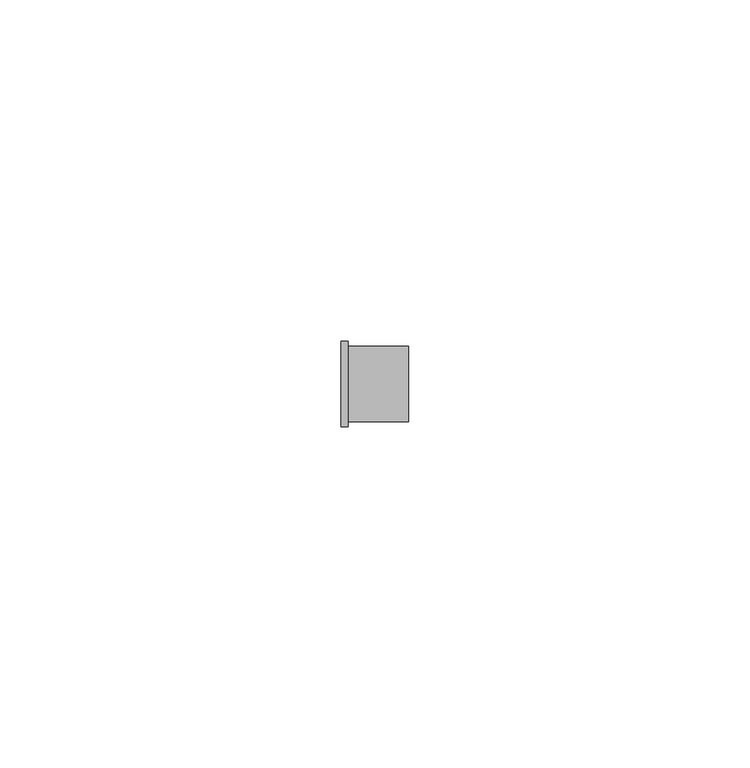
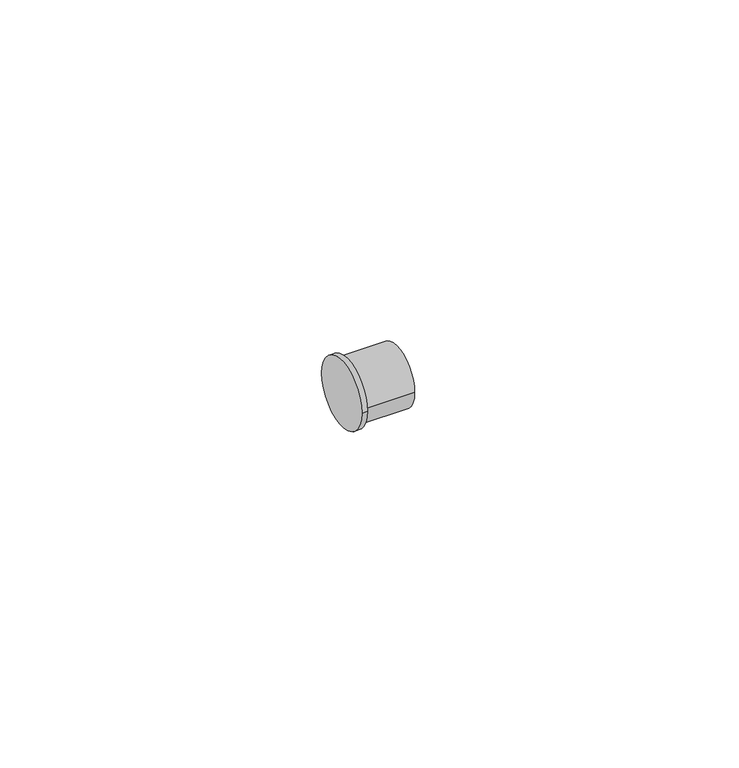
"""IFC4 building model written with IfcOpenShell, lengths in millimetres: pipe fitting geometry, Bucha de redução reta - Soldada - CU : Padrão."""

from ifc_helpers import new_model, si_unit, frame, origin, place, context, project, spatial, circle_curve, source, transform, mapped, element, save
from ifc_brep_helpers import plane_surface, cylinder_surface, advanced_brep


def pipe_fitting_3474c4ef(model_context):
    return source(origin(), model_context, "Body", "AdvancedBrep", [
        advanced_brep(
        [(0.0, -6.25, 0.0), (0.0, 6.25, 0.0), (1.0, -6.25, 0.0), (1.0, 6.25, 0.0), (1.0, -5.5, 0.0), (1.0, 5.5, 0.0), (9.9, -5.5, 0.0), (9.9, 5.5, 0.0)],
        [
            (0, 1, circle_curve(frame((0.0, 0.0, 0.0), z_axis=(-1.0, 0.0, 0.0), x_axis=(0.0, 1.0, 0.0)), 6.25)),
            (1, 0, circle_curve(frame((0.0, 0.0, 0.0), z_axis=(-1.0, 0.0, 0.0), x_axis=(0.0, 1.0, 0.0)), 6.25)),
            (2, 3, circle_curve(frame((1.0, 0.0, 0.0), z_axis=(1.0, 0.0, 0.0), x_axis=(0.0, 1.0, 0.0)), 6.25)),
            (3, 2, circle_curve(frame((1.0, 0.0, 0.0), z_axis=(1.0, 0.0, 0.0), x_axis=(0.0, 1.0, 0.0)), 6.25)),
            (4, 5, circle_curve(frame((1.0, 0.0, 0.0), z_axis=(-1.0, 0.0, 0.0), x_axis=(0.0, 1.0, 0.0)), 5.5)),
            (5, 4, circle_curve(frame((1.0, 0.0, 0.0), z_axis=(-1.0, 0.0, 0.0), x_axis=(0.0, 1.0, 0.0)), 5.5)),
            (0, 2),
            (3, 1),
            (6, 7, circle_curve(frame((9.9, 0.0, 0.0), z_axis=(1.0, 0.0, 0.0), x_axis=(0.0, 1.0, 0.0)), 5.5)),
            (7, 6, circle_curve(frame((9.9, 0.0, 0.0), z_axis=(1.0, 0.0, 0.0), x_axis=(0.0, 1.0, 0.0)), 5.5)),
            (7, 5),
            (4, 6),
        ],
        [
            plane_surface(frame((0.0, 0.0, 0.0), z_axis=(-1.0, 0.0, 0.0), x_axis=(0.0, 0.0, 1.0))),
            plane_surface(frame((1.0, 0.0, 0.0), z_axis=(1.0, 0.0, 0.0), x_axis=(0.0, 0.0, 1.0))),
            cylinder_surface(frame((0.0, 0.0, 0.0), z_axis=(-1.0, 0.0, 0.0), x_axis=(0.0, 1.0, 0.0)), 6.25),
            plane_surface(frame((9.9, 0.0, 0.0), z_axis=(1.0, 0.0, 0.0), x_axis=(0.0, 0.0, 1.0))),
            cylinder_surface(frame((1.0, 0.0, 0.0), z_axis=(-1.0, 0.0, 0.0), x_axis=(0.0, 1.0, 0.0)), 5.5),
        ],
        [
            (0, [[1, 2]]),
            (1, [[3, 4], [5, 6]]),
            (2, [[-1, 7, -4, 8]]),
            (2, [[-2, -8, -3, -7]]),
            (3, [[9, 10]]),
            (4, [[-10, 11, -5, 12]]),
            (4, [[-9, -12, -6, -11]]),
        ],
    ),
    ])


if __name__ == "__main__":
    model = new_model("IFC4")
    model_context = context("Model", 3, world=origin())
    ifc_project = project(units=[si_unit("LENGTHUNIT", "METRE", prefix="MILLI")], contexts=[model_context])
    site = spatial("IfcSite", under=ifc_project)
    building = spatial("IfcBuilding", under=site)
    placement = place(None, origin())
    pipe_fitting_shape = pipe_fitting_3474c4ef(model_context)
    element("IfcPipeFitting", 1, ObjectType="Bucha de redução reta - Soldada - CU : Padrão", at=placement, inside=building, context=model_context, shape_type="MappedRepresentation", body=[
        mapped(pipe_fitting_shape, transform((0.0, 0.0, 0.0), x_axis=(1.0, 0.0, 0.0), y_axis=(0.0, 1.0, 0.0), z_axis=(0.0, 0.0, 1.0))),
    ])
    save(model, "model.ifc")
